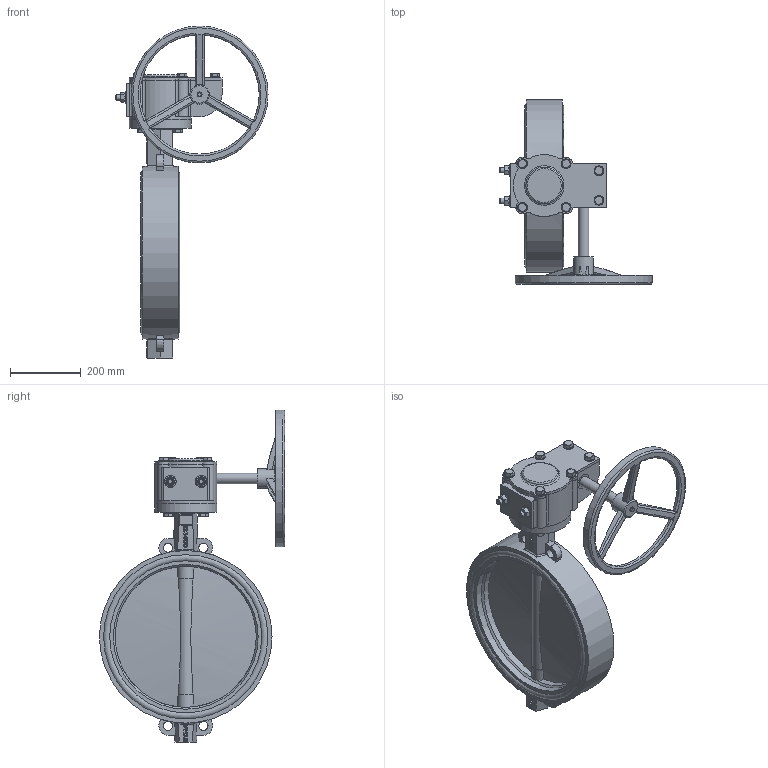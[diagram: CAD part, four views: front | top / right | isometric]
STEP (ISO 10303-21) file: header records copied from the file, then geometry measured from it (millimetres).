
FILE_DESCRIPTION(('STEP AP242'), '1');
FILE_NAME('Ïîâîðîòíûé çàòâîð ïîä ýëåêòðîïðèâîä', '', ('UNSPECIFIED'), ('UNSPECIFIED'), 'C3D Converter', 'C3D Toolkit', '');
FILE_SCHEMA(('AP242_MANAGED_MODEL_BASED_3D_ENGINEERING_MIM_LF { 1 0 10303 442 1 1 4 }'));
Length unit declared in the file: millimetre
Products named in the file (17): П
Assembly tree (36 placements, depth 3):
  (unnamed)
    (unnamed)
    П  x2
    (unnamed)
    (unnamed)
    (unnamed)
    (unnamed)
      (unnamed)
      (unnamed)
      (unnamed)
      (unnamed)
      (unnamed)  x6
      (unnamed)  x6
      (unnamed)  x2
      (unnamed)  x2
      (unnamed)
    (unnamed)  x4
    (unnamed)  x4
Bounding box: 431 x 524.5 x 940.5 mm (x, y, z)
Volume: 16059165.5 mm3; surface area: 2005691.8 mm2
Topology: 35 solids, 35 shells, 797 faces, 1899 edges, 1223 vertices
Faces by surface type: plane 393, cylinder 147, extrusion 119, bspline 61, cone 44, torus 29, sphere 4
Full cylindrical faces by diameter (mm): 6 x2, 11.421 x1, 14.376 x2, 16 x30, 17 x10, 18 x4, 26 x4, 28 x10, 30 x3, 36 x6, 45 x2, 48.45 x4, 50.912 x5, 55 x1, 175 x2, 338 x1, 348 x1, 378 x1, 388 x1, 400 x1, 410.2 x2, 430.6 x2, 447.9 x4, 465.2 x4, 489 x1
Entity records: 32699 total; most frequent: CARTESIAN_POINT 15664, ORIENTED_EDGE 2920, DIRECTION 2379, EDGE_CURVE 1460, VERTEX_POINT 1017, EDGE_LOOP 837, AXIS2_PLACEMENT_3D 807, VECTOR 765
